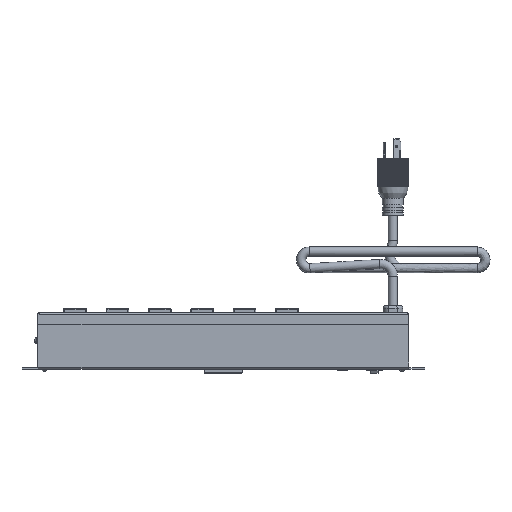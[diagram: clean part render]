
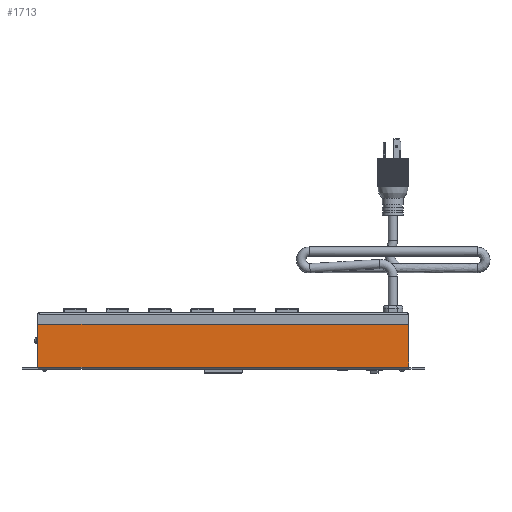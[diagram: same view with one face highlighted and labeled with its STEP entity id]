
A CAD part, front view. The second image highlights one B-rep face of the part: STEP entity #1713.
In plain terms, the highlighted planar face has unit normal (0, -1, 0).
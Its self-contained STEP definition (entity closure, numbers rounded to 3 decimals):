
#1504=CARTESIAN_POINT('',(-222.25,-21.819,2.588));
#1505=VERTEX_POINT('',#1504);
#1506=CARTESIAN_POINT('',(222.25,-21.819,2.588));
#1507=VERTEX_POINT('',#1506);
#1508=CARTESIAN_POINT('',(-222.25,-21.819,2.588));
#1509=DIRECTION('',(1.0,0.0,0.0));
#1510=VECTOR('',#1509,444.5);
#1511=LINE('',#1508,#1510);
#1512=EDGE_CURVE('',#1505,#1507,#1511,.T.);
#1562=CARTESIAN_POINT('',(222.25,-21.819,53.975));
#1563=VERTEX_POINT('',#1562);
#1570=CARTESIAN_POINT('',(222.25,-21.819,53.975));
#1571=DIRECTION('',(0.0,0.0,-1.0));
#1572=VECTOR('',#1571,51.387);
#1573=LINE('',#1570,#1572);
#1574=EDGE_CURVE('',#1563,#1507,#1573,.T.);
#1667=CARTESIAN_POINT('',(-222.25,-21.819,53.975));
#1668=VERTEX_POINT('',#1667);
#1669=CARTESIAN_POINT('',(-222.25,-21.819,2.588));
#1670=DIRECTION('',(0.0,0.0,1.0));
#1671=VECTOR('',#1670,51.388);
#1672=LINE('',#1669,#1671);
#1673=EDGE_CURVE('',#1505,#1668,#1672,.T.);
#1690=CARTESIAN_POINT('',(-222.25,-21.819,53.975));
#1691=DIRECTION('',(1.0,0.0,0.0));
#1692=VECTOR('',#1691,444.5);
#1693=LINE('',#1690,#1692);
#1694=EDGE_CURVE('',#1668,#1563,#1693,.T.);
#1702=CARTESIAN_POINT('',(0.,-21.819,26.947));
#1703=DIRECTION('',(0.0,1.0,0.0));
#1704=DIRECTION('',(1.0,0.0,0.0));
#1705=AXIS2_PLACEMENT_3D('',#1702,#1703,#1704);
#1706=PLANE('',#1705);
#1707=ORIENTED_EDGE('',*,*,#1512,.T.);
#1708=ORIENTED_EDGE('',*,*,#1574,.F.);
#1709=ORIENTED_EDGE('',*,*,#1694,.F.);
#1710=ORIENTED_EDGE('',*,*,#1673,.F.);
#1711=EDGE_LOOP('',(#1707,#1708,#1709,#1710));
#1712=FACE_OUTER_BOUND('',#1711,.T.);
#1713=ADVANCED_FACE('',(#1712),#1706,.F.);
